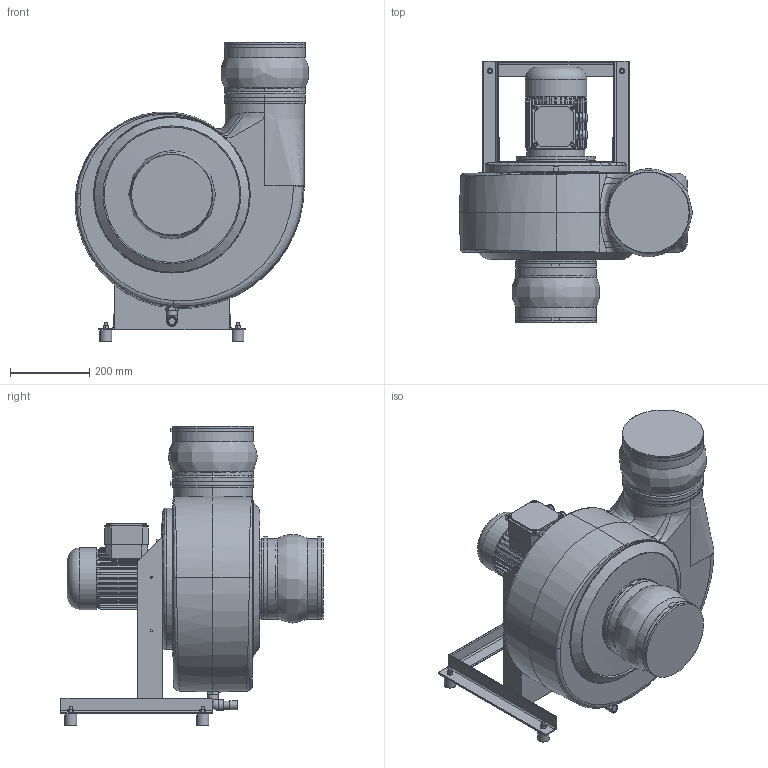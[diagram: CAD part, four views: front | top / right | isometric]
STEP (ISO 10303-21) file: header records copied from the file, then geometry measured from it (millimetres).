
FILE_DESCRIPTION( ( 'Unknown' ), '1' );
FILE_NAME( 'K:/HOME/HLT_CAD/Z/HF/3D/Zusammenstellung/HFR/HFR 15_17/HFR...-15D/DS_1/HFR_200-15D/GR360/HFR_200-15D_DS1_GR_360_080.stp', 'Unknown', ( 'Unknown' ), ( 'Unknown' ), 'PSStep 17.0.49', 'Unknown', ' ' );
FILE_SCHEMA( ( 'AUTOMOTIVE_DESIGN { 1 0 10303 214 1 1 1 1 }' ) );
Length unit declared in the file: millimetre
Products named in the file (30): 6203_Kugelmanschette; 6203_Manschettenband_HFR200; 6203_Schelle_HFR200; 5159_Kondensatablauf_125-315; Winkel_90°_G1_2; Stopfen_G1_2-oa0; Rohr_20; Verschlusskappe_20; 5217_Laufradbefestigung; 5217_Drehteil; 5217_Flachdichtung_Ø32; 5217_Schraubkappe; 5217_Flachdichtung_Ø63; 5301_Gestell_HFR200_15_17_D_DS1; Angle 40x40x4-oa1; Angle 40x40x4-oa2; Angle 40x40x4-oa3; 5301_Gehäusebefestigungsplatte-oa4; Laufrad 200; Deckscheibe 200; Nabe 160-315; 1108_19; Assem1; 200 mit laufrad HF R 200; 6611_Motorring_Bg80; Schwidä_30x30; 6kant_M8; B5_80a_2HIHI; Gehäuse_200_GR_abgeschn
Assembly tree (37 placements, depth 3):
  Assem1
    200 mit laufrad HF R 200
    6611_Motorring_Bg80
    Schwidä_30x30  x4
    6kant_M8  x4
    B5_80a_2HIHI
    Gehäuse_200_GR_abgeschn
    Laufrad 200
      Deckscheibe 200
      Laufrad 200
      Nabe 160-315
      1108_19
    5159_Kondensatablauf_125-315
      Winkel_90°_G1_2
      Stopfen_G1_2-oa0
      Rohr_20
      Verschlusskappe_20
    6203_Kugelmanschette  x2
      6203_Manschettenband_HFR200
      6203_Schelle_HFR200
    5217_Laufradbefestigung
      5217_Drehteil
      5217_Flachdichtung_Ø32
      5217_Schraubkappe
      5217_Flachdichtung_Ø63
    5301_Gestell_HFR200_15_17_D_DS1
      Angle 40x40x4-oa1
      Angle 40x40x4-oa2
      Angle 40x40x4-oa3
      5301_Gehäusebefestigungsplatte-oa4
Bounding box: 590.09 x 663 x 758 mm (x, y, z)
Volume: 72907000.1 mm3; surface area: 2942140.7 mm2
Topology: 34 solids, 34 shells, 1359 faces, 3316 edges, 2120 vertices
Faces by surface type: plane 751, cylinder 305, cone 131, bspline 128, torus 36, extrusion 4, revolution 4
Full cylindrical faces by diameter (mm): 3.5 x3, 4.917 x1, 5.5 x4, 6.35 x2, 6.647 x8, 8 x14, 9 x2, 10 x4, 10.5 x1, 11 x12, 12 x5, 13 x9, 16 x2, 17 x1, 19 x1, 20 x4, 20.955 x1, 22.212 x1, 22.8 x1, 23 x1, 24 x4, 25 x1, 26.5 x2, 30 x4, 30.291 x1, 32 x1, 33.25 x1, 37 x1, 40 x1, 44 x1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
Entity records: 81722 total; most frequent: CARTESIAN_POINT 42467, ORIENTED_EDGE 5808, DIRECTION 5423, EDGE_CURVE 2904, AXIS2_PLACEMENT_3D 1998, VERTEX_POINT 1939, EDGE_LOOP 1615, VECTOR 1423
